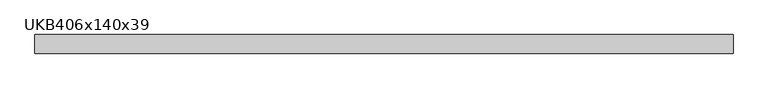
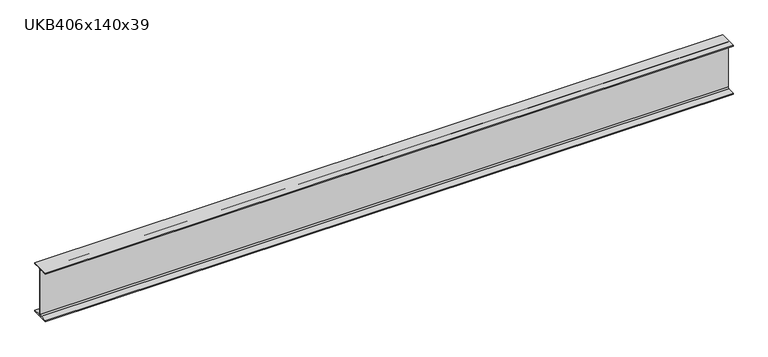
"""IFC4 building model written with IfcOpenShell, lengths in millimetres: beam geometry, UKB-UK Beams : UKB406x140x39."""

from ifc_helpers import new_model, si_unit, point, frame, frame_2d, origin, place, context, project, spatial, polyline, circle_curve, trimmed, segment, composite_curve, outline, extrude, source, transform, mapped, element, save


def ukb406x140x39_85102be7(model_context):
    return source(origin(), model_context, "Body", "SweptSolid", [
        extrude(outline(composite_curve([segment(polyline([(70.9, -190.4), (70.9, -199.0), (-70.9, -199.0), (-70.9, -190.4), (-13.4, -190.4)]), True, "CONTINUOUS"), segment(trimmed(circle_curve(frame_2d((-13.4, -180.2)), 10.2), [point((-13.4, -190.4))], [point((-3.2, -180.2))], True, "CARTESIAN"), True, "CONTINUOUS"), segment(polyline([(-3.2, -180.2), (-3.2, 180.2)]), True, "CONTINUOUS"), segment(trimmed(circle_curve(frame_2d((-13.4, 180.2)), 10.2), [point((-3.2, 180.2))], [point((-13.4, 190.4))], True, "CARTESIAN"), True, "CONTINUOUS"), segment(polyline([(-13.4, 190.4), (-70.9, 190.4), (-70.9, 199.0), (70.9, 199.0), (70.9, 190.4), (13.4, 190.4)]), True, "CONTINUOUS"), segment(trimmed(circle_curve(frame_2d((13.4, 180.2)), 10.2), [point((13.4, 190.4))], [point((3.2, 180.2))], True, "CARTESIAN"), True, "CONTINUOUS"), segment(polyline([(3.2, 180.2), (3.2, -180.2)]), True, "CONTINUOUS"), segment(trimmed(circle_curve(frame_2d((13.4, -180.2)), 10.2), [point((3.2, -180.2))], [point((13.4, -190.4))], True, "CARTESIAN"), True, "CONTINUOUS"), segment(polyline([(13.4, -190.4), (70.9, -190.4)]), True, "CONTINUOUS")], self_intersect=False)), frame((-2660.5, 0.0, 0.0), z_axis=(1.0, 0.0, 0.0), x_axis=(0.0, 1.0, 0.0)), (0.0, 0.0, 1.0), 5321.0),
    ])


if __name__ == "__main__":
    model = new_model("IFC4")
    model_context = context("Model", 3, world=origin())
    ifc_project = project(units=[si_unit("LENGTHUNIT", "METRE", prefix="MILLI")], contexts=[model_context])
    site = spatial("IfcSite", under=ifc_project)
    building = spatial("IfcBuilding", under=site)
    placement = place(None, origin())
    ukb406x140x39_shape = ukb406x140x39_85102be7(model_context)
    element("IfcBeam", 1, ObjectType="UKB-UK Beams : UKB406x140x39", at=placement, inside=building, context=model_context, shape_type="MappedRepresentation", body=[
        mapped(ukb406x140x39_shape, transform((0.0, 0.0, 0.0), x_axis=(1.0, 0.0, 0.0), y_axis=(0.0, 1.0, 0.0), z_axis=(0.0, 0.0, 1.0))),
    ])
    save(model, "model.ifc")
